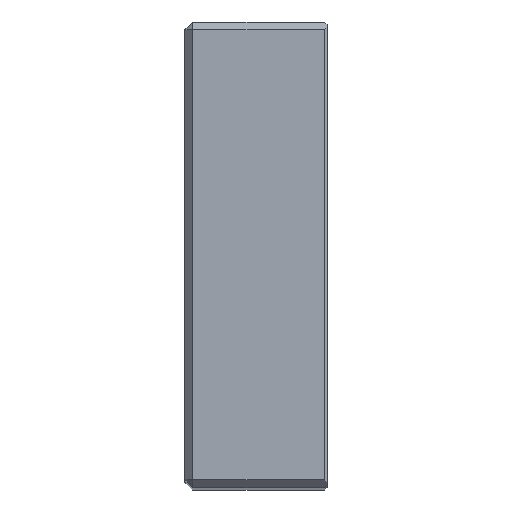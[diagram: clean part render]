
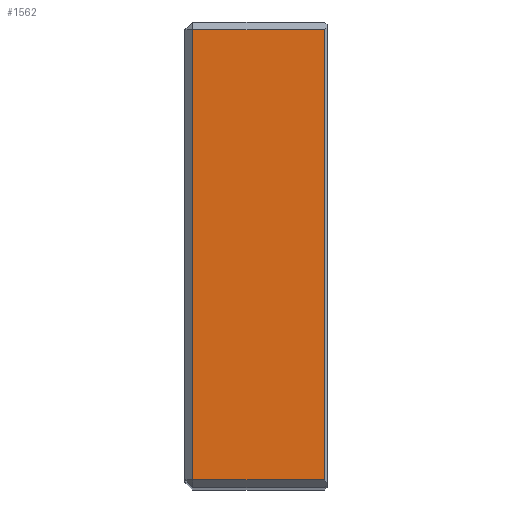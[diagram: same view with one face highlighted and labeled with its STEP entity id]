
A CAD part, top view. The second image highlights one B-rep face of the part: STEP entity #1562.
In plain terms, the highlighted planar face has unit normal (0, 0, 1).
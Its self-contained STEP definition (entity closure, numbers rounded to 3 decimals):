
#145=VERTEX_POINT(' ',#146);
#146=CARTESIAN_POINT('',(3.,87.,0.));
#149=VERTEX_POINT(' ',#150);
#150=CARTESIAN_POINT('',(3.,-87.,0.));
#175=VERTEX_POINT(' ',#176);
#176=CARTESIAN_POINT('',(54.,87.,0.));
#179=VERTEX_POINT(' ',#180);
#180=CARTESIAN_POINT('',(54.,-87.,0.));
#506=LINE('',#507,#508);
#507=CARTESIAN_POINT('',(3.,-106.971,0.));
#508=VECTOR('',#509,1.);
#509=DIRECTION('',(0.,1.,0.));
#510=EDGE_CURVE(' ',#149,#145,#506,.T.);
#626=LINE('',#627,#628);
#627=CARTESIAN_POINT('',(-13.971,87.,0.));
#628=VECTOR('',#629,1.);
#629=DIRECTION('',(1.,0.,0.));
#630=EDGE_CURVE(' ',#145,#175,#626,.T.);
#631=LINE('',#632,#633);
#632=CARTESIAN_POINT('',(54.,92.657,0.));
#633=VECTOR('',#634,1.);
#634=DIRECTION('',(0.,-1.,0.));
#635=EDGE_CURVE(' ',#175,#179,#631,.T.);
#636=LINE('',#637,#638);
#637=CARTESIAN_POINT('',(71.971,-87.,0.));
#638=VECTOR('',#639,1.);
#639=DIRECTION('',(-1.,0.,0.));
#640=EDGE_CURVE(' ',#179,#149,#636,.T.);
#1551=ORIENTED_EDGE('',*,*,#635,.F.);
#1552=ORIENTED_EDGE('',*,*,#630,.F.);
#1553=ORIENTED_EDGE('',*,*,#510,.F.);
#1554=ORIENTED_EDGE('',*,*,#640,.F.);
#1555=EDGE_LOOP('',(#1551,#1552,#1553,#1554));
#1556=FACE_OUTER_BOUND('',#1555,.T.);
#1557=PLANE('',#1558);
#1558=AXIS2_PLACEMENT_3D('',#1559,#1560,#1561);
#1559=CARTESIAN_POINT('',(0.,-90.,0.));
#1560=DIRECTION('',(0.,0.,1.));
#1561=DIRECTION('',(0.,1.,0.));
#1562=ADVANCED_FACE('',(#1556),#1557,.T.);
